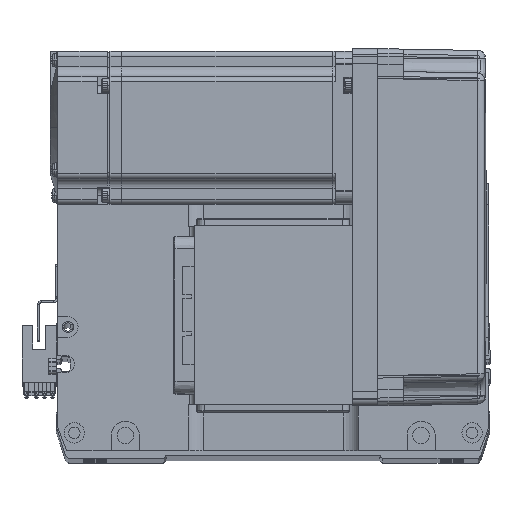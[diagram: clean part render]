
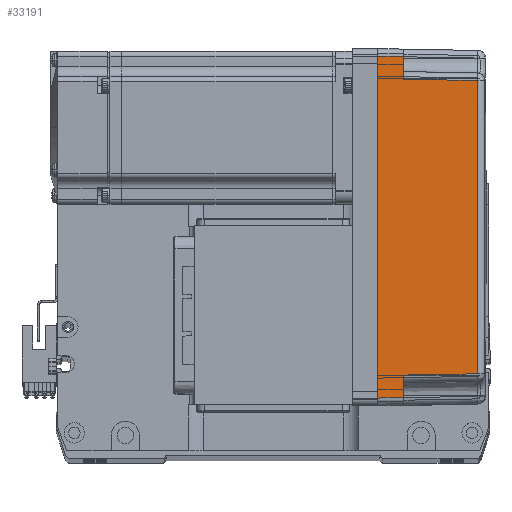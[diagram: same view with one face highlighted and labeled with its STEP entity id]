
A CAD part, top view. The second image highlights one B-rep face of the part: STEP entity #33191.
In plain terms, the highlighted planar face has unit normal (0.018, 0, 1) as drawn and (0, -1, 0.017) by its records, which use the part's own axes.
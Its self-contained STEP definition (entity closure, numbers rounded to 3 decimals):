
#1383 = EDGE_CURVE ( 'NONE', #3435, #53084, #59266, .T. ) ;
#2107 = DIRECTION ( 'NONE',  ( -0.017, -0.017, -1. ) ) ;
#3011 = VECTOR ( 'NONE', #42293, 1000. ) ;
#3435 = VERTEX_POINT ( 'NONE', #27318 ) ;
#3673 = VECTOR ( 'NONE', #37498, 1000. ) ;
#4632 = CARTESIAN_POINT ( 'NONE',  ( -57.495, -35.32, 38.985 ) ) ;
#5052 = VERTEX_POINT ( 'NONE', #57123 ) ;
#5715 = VERTEX_POINT ( 'NONE', #9004 ) ;
#6215 = CARTESIAN_POINT ( 'NONE',  ( -57.495, -35.32, 38.985 ) ) ;
#7249 = VERTEX_POINT ( 'NONE', #27773 ) ;
#7363 = VECTOR ( 'NONE', #25351, 1000. ) ;
#7494 = EDGE_CURVE ( 'NONE', #3435, #35976, #31304, .T. ) ;
#8466 = LINE ( 'NONE', #6215, #43136 ) ;
#9004 = CARTESIAN_POINT ( 'NONE',  ( -66.826, -35.825, 10. ) ) ;
#9131 = DIRECTION ( 'NONE',  ( 0., -1., 0.017 ) ) ;
#9628 = CARTESIAN_POINT ( 'NONE',  ( 19.165, -35.316, 39.181 ) ) ;
#13630 = CARTESIAN_POINT ( 'NONE',  ( -67., -36., 0. ) ) ;
#14117 = LINE ( 'NONE', #56943, #48788 ) ;
#14635 = VERTEX_POINT ( 'NONE', #30264 ) ;
#15043 = CARTESIAN_POINT ( 'NONE',  ( 0., -36., 0. ) ) ;
#16136 = LINE ( 'NONE', #52405, #3011 ) ;
#17342 = CARTESIAN_POINT ( 'NONE',  ( -58., -35.825, 10. ) ) ;
#18931 = EDGE_LOOP ( 'NONE', ( #28276, #53193, #25869, #60644, #47058, #22776, #33951, #48884 ) ) ;
#19464 = LINE ( 'NONE', #37468, #20996 ) ;
#20371 = EDGE_CURVE ( 'NONE', #5052, #14635, #16136, .T. ) ;
#20996 = VECTOR ( 'NONE', #42840, 1000. ) ;
#22776 = ORIENTED_EDGE ( 'NONE', *, *, #63245, .T. ) ;
#24481 = CARTESIAN_POINT ( 'NONE',  ( 57.495, -35.32, 38.985 ) ) ;
#25351 = DIRECTION ( 'NONE',  ( -1., 0., 0. ) ) ;
#25869 = ORIENTED_EDGE ( 'NONE', *, *, #20371, .T. ) ;
#26346 = EDGE_CURVE ( 'NONE', #7249, #33091, #8466, .T. ) ;
#27318 = CARTESIAN_POINT ( 'NONE',  ( 67., -36., 0. ) ) ;
#27460 = FACE_OUTER_BOUND ( 'NONE', #18931, .T. ) ;
#27744 = CARTESIAN_POINT ( 'NONE',  ( 67., -36., 0. ) ) ;
#27773 = CARTESIAN_POINT ( 'NONE',  ( -57.495, -35.32, 38.985 ) ) ;
#27965 = DIRECTION ( 'NONE',  ( -0.017, 0.017, 1. ) ) ;
#28276 = ORIENTED_EDGE ( 'NONE', *, *, #1383, .T. ) ;
#28624 = B_SPLINE_CURVE_WITH_KNOTS ( 'NONE', 3,
 ( #24481, #9628, #54808, #4632 ),
 .UNSPECIFIED., .F., .F.,
 ( 4, 4 ),
 ( 0., 1. ),
 .UNSPECIFIED. ) ;
#30264 = CARTESIAN_POINT ( 'NONE',  ( 57.495, -35.32, 38.985 ) ) ;
#30587 = EDGE_CURVE ( 'NONE', #14635, #7249, #28624, .T. ) ;
#31304 = LINE ( 'NONE', #15043, #7363 ) ;
#33091 = VERTEX_POINT ( 'NONE', #17342 ) ;
#33190 = CARTESIAN_POINT ( 'NONE',  ( 70., -35.825, 10. ) ) ;
#33191 = ADVANCED_FACE ( 'NONE', ( #27460 ), #57164, .T. ) ;
#33951 = ORIENTED_EDGE ( 'NONE', *, *, #62730, .F. ) ;
#35976 = VERTEX_POINT ( 'NONE', #13630 ) ;
#37468 = CARTESIAN_POINT ( 'NONE',  ( 70., -35.825, 10. ) ) ;
#37498 = DIRECTION ( 'NONE',  ( -1., 0., 0. ) ) ;
#42293 = DIRECTION ( 'NONE',  ( -0.017, 0.017, 1. ) ) ;
#42480 = DIRECTION ( 'NONE',  ( 0.017, 0.017, 1. ) ) ;
#42840 = DIRECTION ( 'NONE',  ( -1., 0., 0. ) ) ;
#43136 = VECTOR ( 'NONE', #2107, 1000. ) ;
#43399 = AXIS2_PLACEMENT_3D ( 'NONE', #62131, #9131, #59083 ) ;
#47058 = ORIENTED_EDGE ( 'NONE', *, *, #26346, .T. ) ;
#48788 = VECTOR ( 'NONE', #42480, 1000. ) ;
#48884 = ORIENTED_EDGE ( 'NONE', *, *, #7494, .F. ) ;
#49396 = EDGE_CURVE ( 'NONE', #53084, #5052, #63028, .T. ) ;
#52405 = CARTESIAN_POINT ( 'NONE',  ( 58., -35.825, 10. ) ) ;
#53084 = VERTEX_POINT ( 'NONE', #55462 ) ;
#53193 = ORIENTED_EDGE ( 'NONE', *, *, #49396, .T. ) ;
#54808 = CARTESIAN_POINT ( 'NONE',  ( -19.165, -35.316, 39.181 ) ) ;
#55462 = CARTESIAN_POINT ( 'NONE',  ( 66.826, -35.825, 10. ) ) ;
#56943 = CARTESIAN_POINT ( 'NONE',  ( -66.959, -35.958, 2.39 ) ) ;
#57123 = CARTESIAN_POINT ( 'NONE',  ( 58., -35.825, 10. ) ) ;
#57164 = PLANE ( 'NONE',  #43399 ) ;
#59083 = DIRECTION ( 'NONE',  ( 0., -0.017, -1. ) ) ;
#59266 = LINE ( 'NONE', #27744, #62378 ) ;
#60644 = ORIENTED_EDGE ( 'NONE', *, *, #30587, .T. ) ;
#62131 = CARTESIAN_POINT ( 'NONE',  ( 70., -36., 0. ) ) ;
#62378 = VECTOR ( 'NONE', #27965, 1000. ) ;
#62730 = EDGE_CURVE ( 'NONE', #35976, #5715, #14117, .T. ) ;
#63028 = LINE ( 'NONE', #33190, #3673 ) ;
#63245 = EDGE_CURVE ( 'NONE', #33091, #5715, #19464, .T. ) ;
